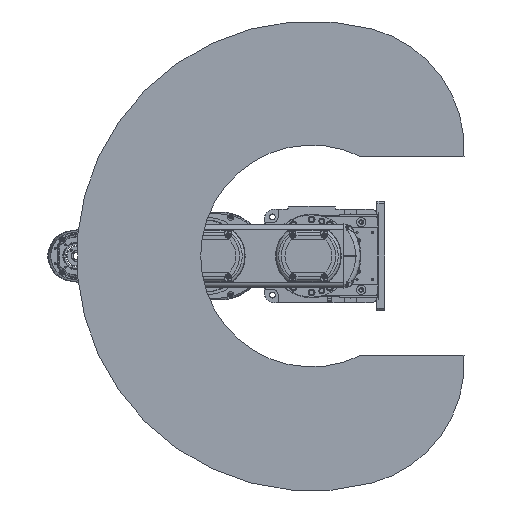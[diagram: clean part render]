
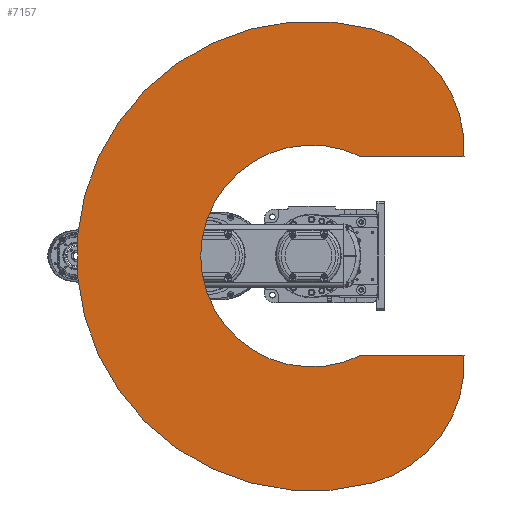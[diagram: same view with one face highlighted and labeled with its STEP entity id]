
A CAD part, front view. The second image highlights one B-rep face of the part: STEP entity #7157.
In plain terms, the highlighted planar face has unit normal (0, -1, 0).
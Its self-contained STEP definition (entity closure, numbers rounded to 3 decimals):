
#7157 = ADVANCED_FACE( '', ( #15725 ), #15726, .F. );
#15725 = FACE_OUTER_BOUND( '', #25747, .T. );
#15726 = PLANE( '', #25748 );
#25747 = EDGE_LOOP( '', ( #45694, #45695, #45696, #45697, #45698, #45699 ) );
#25748 = AXIS2_PLACEMENT_3D( '', #45700, #45701, #45702 );
#45694 = ORIENTED_EDGE( '', *, *, #56809, .T. );
#45695 = ORIENTED_EDGE( '', *, *, #57994, .F. );
#45696 = ORIENTED_EDGE( '', *, *, #54382, .F. );
#45697 = ORIENTED_EDGE( '', *, *, #58565, .F. );
#45698 = ORIENTED_EDGE( '', *, *, #54311, .T. );
#45699 = ORIENTED_EDGE( '', *, *, #57999, .F. );
#45700 = CARTESIAN_POINT( '', ( 102.614, 0., 27.495 ) );
#45701 = DIRECTION( '', ( 0., 1., 0. ) );
#45702 = DIRECTION( '', ( 0., 0., 1. ) );
#54311 = EDGE_CURVE( '', #65467, #65472, #65474, .T. );
#54382 = EDGE_CURVE( '', #65583, #65584, #65585, .T. );
#56809 = EDGE_CURVE( '', #69118, #69116, #69119, .T. );
#57994 = EDGE_CURVE( '', #65584, #69116, #70664, .T. );
#57999 = EDGE_CURVE( '', #69118, #65472, #70670, .F. );
#58565 = EDGE_CURVE( '', #65467, #65583, #71342, .T. );
#65467 = VERTEX_POINT( '', #82285 );
#65472 = VERTEX_POINT( '', #82292 );
#65474 = LINE( '', #82295, #82296 );
#65583 = VERTEX_POINT( '', #82471 );
#65584 = VERTEX_POINT( '', #82472 );
#65585 = CIRCLE( '', #82473, 450. );
#69116 = VERTEX_POINT( '', #88745 );
#69118 = VERTEX_POINT( '', #88748 );
#69119 = LINE( '', #88749, #88750 );
#70664 = CIRCLE( '', #91364, 237.533 );
#70670 = CIRCLE( '', #91372, 212.47 );
#71342 = CIRCLE( '', #92586, 237.533 );
#82285 = CARTESIAN_POINT( '', ( 190., 0., 292.035 ) );
#82292 = CARTESIAN_POINT( '', ( 190., 0., 95.097 ) );
#82295 = CARTESIAN_POINT( '', ( 190., 0., 400. ) );
#82296 = VECTOR( '', #98579, 1000. );
#82471 = CARTESIAN_POINT( '', ( 434.667, 0., 116.469 ) );
#82472 = CARTESIAN_POINT( '', ( -434.667, 0., 116.469 ) );
#82473 = AXIS2_PLACEMENT_3D( '', #98668, #98669, #98670 );
#88745 = CARTESIAN_POINT( '', ( -190., 0., 292.035 ) );
#88748 = CARTESIAN_POINT( '', ( -190., 0., 95.097 ) );
#88749 = CARTESIAN_POINT( '', ( -190., 0., 0. ) );
#88750 = VECTOR( '', #101447, 1000. );
#91364 = AXIS2_PLACEMENT_3D( '', #102724, #102725, #102726 );
#91372 = AXIS2_PLACEMENT_3D( '', #102729, #102730, #102731 );
#92586 = AXIS2_PLACEMENT_3D( '', #103169, #103170, #103171 );
#98579 = DIRECTION( '', ( 0., 0., -1. ) );
#98668 = CARTESIAN_POINT( '', ( 0., 0., 0. ) );
#98669 = DIRECTION( '', ( 0., 1., 0. ) );
#98670 = DIRECTION( '', ( 1., 0., 0. ) );
#101447 = DIRECTION( '', ( 0., 0., 1. ) );
#102724 = CARTESIAN_POINT( '', ( -205.228, 0., 54.991 ) );
#102725 = DIRECTION( '', ( 0., 1., 0. ) );
#102726 = DIRECTION( '', ( 1., 0., 0. ) );
#102729 = CARTESIAN_POINT( '', ( 0., 0., 0. ) );
#102730 = DIRECTION( '', ( 0., 1., 0. ) );
#102731 = DIRECTION( '', ( 0., 0., 1. ) );
#103169 = CARTESIAN_POINT( '', ( 205.228, 0., 54.991 ) );
#103170 = DIRECTION( '', ( 0., 1., 0. ) );
#103171 = DIRECTION( '', ( 1., 0., 0. ) );
